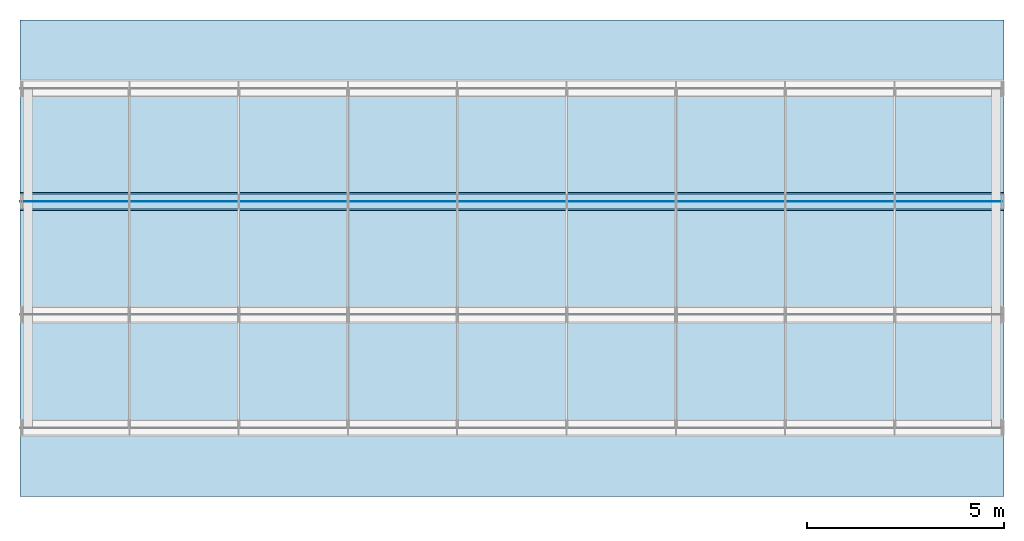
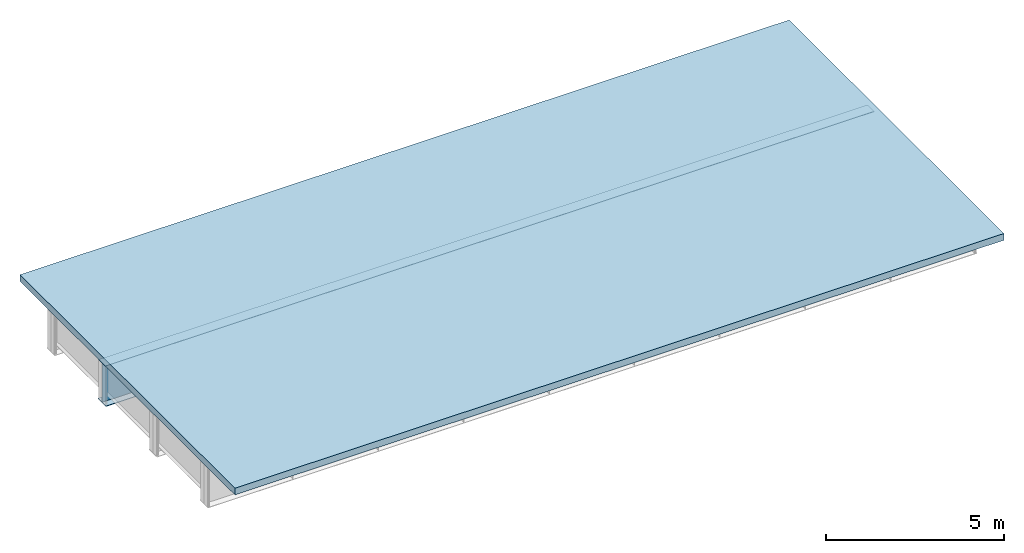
# One storey, part 7 of 10: 3 plates, 1 slab.
"""IFC4 building model written with IfcOpenShell, lengths in metres."""

import ifcopenshell
import ifcopenshell.guid

model = None  # the IFC model being written
_history = None  # IfcOwnerHistory: only IFC2X3 demands one
_inside = {}  # id of a spatial element -> (the spatial element, [elements in it])
_under = {}  # id of a project, library or spatial element -> (it, [spatial elements below it])
_declared = {}  # id of a project -> (the project, [libraries it declares])
_typed = {}  # id of a type object -> (the type object, [elements of that type])
_made_of = {}  # id of a material, layer set ... -> (it, [elements and type objects made of it])


def new_model(schema):
    """Start an empty IFC model of exactly this schema.

    Asked for "IFC4X3", IfcOpenShell would pick the latest addendum, in which some entities
    have other attributes; the version numbers below select the first issue.
    IFC2X3 requires an IfcOwnerHistory on every rooted entity: one is made here for all.
    """
    global model, _history
    if schema == "IFC4X3":
        model = ifcopenshell.file(schema_version=(4, 3, 0, 0))
    else:
        model = ifcopenshell.file(schema=schema)
    _inside.clear()
    _under.clear()
    _declared.clear()
    _typed.clear()
    _made_of.clear()
    _history = None
    if model.schema == "IFC2X3":
        org = make("IfcOrganization", Name="unknown")
        user = make(
            "IfcPersonAndOrganization",
            ThePerson=make("IfcPerson", FamilyName="unknown"),
            TheOrganization=org,
        )
        app = make(
            "IfcApplication",
            ApplicationDeveloper=org,
            Version="unknown",
            ApplicationFullName="unknown",
            ApplicationIdentifier="unknown",
        )
        _history = make(
            "IfcOwnerHistory",
            OwningUser=user,
            OwningApplication=app,
            ChangeAction="ADDED",
            CreationDate=0,
        )
    return model


def make(cls, **values):
    """One entity of the class cls with the attributes given. An attribute that is None is left unset."""
    return model.create_entity(
        cls, **{name: value for name, value in values.items() if value is not None}
    )


def rooted(cls, **values):
    """An entity with a GlobalId (a new one), such as an element, a storey or a relation."""
    return make(cls, GlobalId=ifcopenshell.guid.new(), OwnerHistory=_history, **values)


def si_unit(unit_type, name, prefix=None):
    """IfcSIUnit, for example si_unit("LENGTHUNIT", "METRE", prefix="MILLI")."""
    return make("IfcSIUnit", UnitType=unit_type, Prefix=prefix, Name=name)


def assignment(units):
    """IfcUnitAssignment: the units of a project."""
    return None if units is None else make("IfcUnitAssignment", Units=units)


def point(xyz):
    """IfcCartesianPoint."""
    return None if xyz is None else make("IfcCartesianPoint", Coordinates=xyz)


def direction(xyz):
    """IfcDirection."""
    return None if xyz is None else make("IfcDirection", DirectionRatios=xyz)


def frame(location, z_axis=None, x_axis=None):
    """IfcAxis2Placement3D, a coordinate frame: its origin and axes. An axis left out is left unset."""
    return make(
        "IfcAxis2Placement3D",
        Location=point(location),
        Axis=direction(z_axis),
        RefDirection=direction(x_axis),
    )


def frame_2d(location, x_axis=None):
    """IfcAxis2Placement2D, a coordinate frame in the plane: its origin and x axis."""
    return make(
        "IfcAxis2Placement2D", Location=point(location), RefDirection=direction(x_axis)
    )


def origin():
    """The frame at (0, 0, 0) with its axes left unset."""
    return frame((0.0, 0.0, 0.0))


def origin_with_axes():
    """The frame at (0, 0, 0) with the z axis (0, 0, 1) and the x axis (1, 0, 0) written out."""
    return frame((0.0, 0.0, 0.0), z_axis=(0.0, 0.0, 1.0), x_axis=(1.0, 0.0, 0.0))


def origin_2d_with_axis():
    """The frame at (0, 0) in the plane with the x axis (1, 0) written out."""
    return frame_2d((0.0, 0.0), x_axis=(1.0, 0.0))


def place(relative_to, where):
    """IfcLocalPlacement: puts the frame where relative to a parent placement (None: the world)."""
    return make(
        "IfcLocalPlacement", PlacementRelTo=relative_to, RelativePlacement=where
    )


def context(
    kind, dimensions, precision=None, world=None, true_north=None, identifier=None
):
    """IfcGeometricRepresentationContext, for example the 3D "Model" context."""
    return make(
        "IfcGeometricRepresentationContext",
        ContextIdentifier=identifier,
        ContextType=kind,
        CoordinateSpaceDimension=dimensions,
        Precision=precision,
        WorldCoordinateSystem=world,
        TrueNorth=true_north,
    )


def subcontext(parent, identifier, kind, view, scale=None):
    """IfcGeometricRepresentationSubContext, for example "Body" below "Model"."""
    return make(
        "IfcGeometricRepresentationSubContext",
        ContextIdentifier=identifier,
        ContextType=kind,
        ParentContext=parent,
        TargetScale=scale,
        TargetView=view,
    )


def project(units=None, contexts=None):
    """IfcProject with its units and contexts."""
    return rooted(
        "IfcProject",
        Name="project",
        RepresentationContexts=contexts,
        UnitsInContext=assignment(units),
    )


def spatial(cls, under=None, at=None, **own):
    """A site, building, storey or space (cls), placed at a placement, below another one or the project."""
    s = rooted(cls, ObjectPlacement=at, **own)
    if under is not None:
        _under.setdefault(under.id(), (under, []))[1].append(s)
    return s


def polyline(points):
    """IfcPolyline through the points."""
    return make("IfcPolyline", Points=[point(p) for p in points])


def profile(cls, at=None, kind="AREA", **sizes):
    """A parametric profile (cls). Its sizes go by their IFC names, for example OverallWidth=200.0."""
    return make(cls, ProfileType=kind, Position=at, **sizes)


def rectangle(**sizes):
    """IfcRectangleProfileDef."""
    return profile("IfcRectangleProfileDef", **sizes)


def outline(outer, holes=None, kind="AREA"):
    """IfcArbitraryClosedProfileDef: a profile drawn as a closed curve; with holes, ...WithVoids."""
    if holes is None:
        return make("IfcArbitraryClosedProfileDef", ProfileType=kind, OuterCurve=outer)
    return make(
        "IfcArbitraryProfileDefWithVoids",
        ProfileType=kind,
        OuterCurve=outer,
        InnerCurves=holes,
    )


def extrude(swept, where, along, depth):
    """IfcExtrudedAreaSolid: the profile swept, set in the frame where, extruded along a direction by depth."""
    return make(
        "IfcExtrudedAreaSolid",
        SweptArea=swept,
        Position=where,
        ExtrudedDirection=direction(along),
        Depth=depth,
    )


def shape(context_of_items, identifier, shape_type, items):
    """IfcShapeRepresentation: the items that make up one representation, for example the "Body"."""
    return make(
        "IfcShapeRepresentation",
        ContextOfItems=context_of_items,
        RepresentationIdentifier=identifier,
        RepresentationType=shape_type,
        Items=items,
    )


def made_of(thing, what):
    """Note that an element or type object is made of a material, layer set ...; save() writes the relation."""
    if what is not None:
        _made_of.setdefault(what.id(), (what, []))[1].append(thing)
    return thing


def element(
    cls,
    number,
    at=None,
    inside=None,
    cuts=None,
    type_object=None,
    material=None,
    context=None,
    identifier="Body",
    shape_type=None,
    held_by="IfcProductDefinitionShape",
    body=None,
    shapes=None,
    **own,
):
    """One element of the class cls, such as IfcWall. Its Tag is "e" and its number.

    at: its placement. inside: the storey or other place that contains it. cuts: it is an
    opening in that element (IfcRelVoidsElement). A single representation is given by context,
    identifier, shape_type and body (its items); several are given by shapes. held_by: the class
    of the entity that holds the representations. save() writes the other relations.
    """
    e = rooted(cls, Tag="e%d" % number, ObjectPlacement=at, **own)
    if body is not None:
        shapes = [shape(context, identifier, shape_type, body)]
    if shapes is not None:
        e.Representation = make(held_by, Representations=shapes)
    if inside is not None:
        _inside.setdefault(inside.id(), (inside, []))[1].append(e)
    if cuts is not None:
        rooted(
            "IfcRelVoidsElement", RelatingBuildingElement=cuts, RelatedOpeningElement=e
        )
    if type_object is not None:
        _typed.setdefault(type_object.id(), (type_object, []))[1].append(e)
    return made_of(e, material)


def aggregate(whole, parts):
    """IfcRelAggregates: a whole, such as a stair, and the parts it consists of."""
    return rooted("IfcRelAggregates", RelatingObject=whole, RelatedObjects=parts)


def save(model, path):
    """Write the relations noted so far, then the file.

    IfcRelAggregates (storeys below a building ...), IfcRelContainedInSpatialStructure (elements
    in a storey), IfcRelDefinesByType, IfcRelAssociatesMaterial and IfcRelDeclares: one each for
    every whole, place, type object, material and project.
    """
    for whole, parts in _under.values():
        aggregate(whole, parts)
    for where, things in _inside.values():
        rooted(
            "IfcRelContainedInSpatialStructure",
            RelatedElements=things,
            RelatingStructure=where,
        )
    for kind, things in _typed.values():
        rooted("IfcRelDefinesByType", RelatedObjects=things, RelatingType=kind)
    for what, things in _made_of.values():
        rooted("IfcRelAssociatesMaterial", RelatedObjects=things, RelatingMaterial=what)
    for by, libraries in _declared.values():
        rooted("IfcRelDeclares", RelatingContext=by, RelatedDefinitions=libraries)
    model.write(path)


model = new_model("IFC4")

# Units and contexts
model_context = context("Model", 3, precision=1e-05, world=origin())
body_context = subcontext(model_context, "Body", "Model", "MODEL_VIEW")
ifc_project = project(units=[si_unit("LENGTHUNIT", "METRE"), si_unit("AREAUNIT", "SQUARE_METRE"), si_unit("VOLUMEUNIT", "CUBIC_METRE"), si_unit("PLANEANGLEUNIT", "RADIAN")], contexts=[model_context])

# Site, building, storey
site_placement = place(None, origin_with_axes())
site = spatial("IfcSite", under=ifc_project, at=site_placement, Name="Default Site")
building_placement = place(site_placement, origin_with_axes())
building = spatial("IfcBuilding", under=site, at=building_placement, Name="Bridge Structure")
storey_placement = place(building_placement, origin_with_axes())
storey = spatial("IfcBuildingStorey", under=building, at=storey_placement, Name="Superstructure")

# Plates
plate_1_placement = place(storey_placement, frame((0.0, 1.4375, 0.0), z_axis=(1.0, 0.0, 0.0), x_axis=(0.0, 1.0, 0.0)))
element("IfcPlate", 1, at=plate_1_placement, inside=storey, Name="Girder Web 3", context=body_context, shape_type="SweptSolid", body=[
    extrude(rectangle(XDim=0.012, YDim=1.337, at=origin_2d_with_axis()), origin_with_axes(), (0.0, 0.0, 1.0), 25.0),
])
plate_2_placement = place(storey_placement, frame((0.0, 1.4375, 0.6775), z_axis=(1.0, 0.0, 0.0), x_axis=(0.0, 1.0, 0.0)))
element("IfcPlate", 2, at=plate_2_placement, inside=storey, Name="Top Flange 3", context=body_context, shape_type="SweptSolid", body=[
    extrude(rectangle(XDim=0.375, YDim=0.018000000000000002, at=origin_2d_with_axis()), origin_with_axes(), (0.0, 0.0, 1.0), 25.0),
])
plate_3_placement = place(storey_placement, frame((0.0, 1.4375, -0.6785), z_axis=(1.0, 0.0, 0.0), x_axis=(0.0, 1.0, 0.0)))
element("IfcPlate", 3, at=plate_3_placement, inside=storey, Name="Bottom Flange 3", context=body_context, shape_type="SweptSolid", body=[
    extrude(rectangle(XDim=0.45, YDim=0.02, at=origin_2d_with_axis()), origin_with_axes(), (0.0, 0.0, 1.0), 25.0),
])

# Slab
slab_placement = place(storey_placement, frame((0.0, 0.0, 0.6865), z_axis=(0.0, 0.0, 1.0), x_axis=(1.0, 0.0, 0.0)))
element("IfcSlab", 4, at=slab_placement, inside=storey, Name="Deck Slab", context=body_context, shape_type="SweptSolid", body=[
    extrude(outline(polyline([(0.0, -6.05), (25.0, -6.05), (25.0, 6.05), (0.0, 6.05), (0.0, -6.05)])), origin_with_axes(), (0.0, 0.0, 1.0), 0.23),
])

save(model, "model.ifc")
